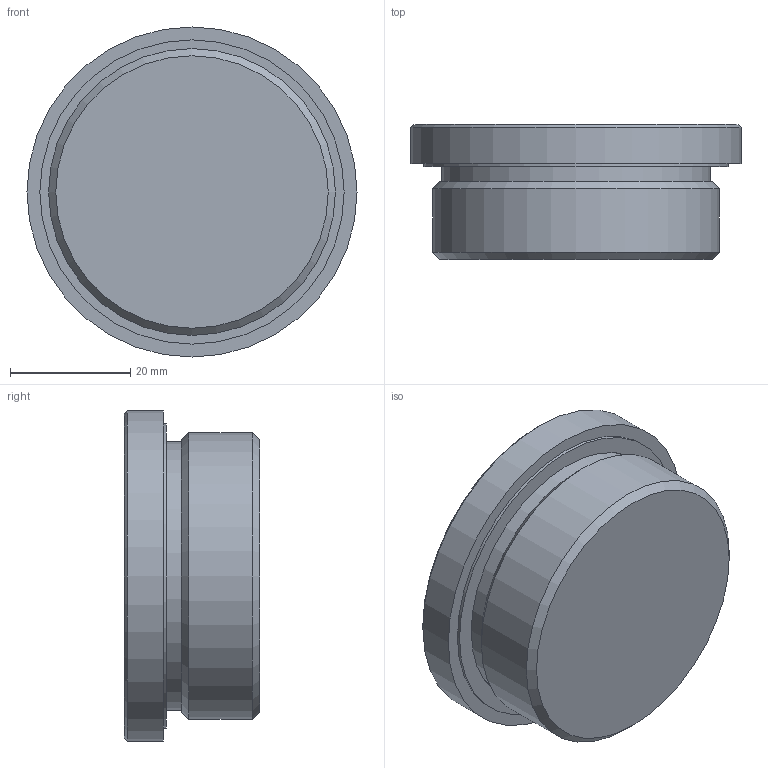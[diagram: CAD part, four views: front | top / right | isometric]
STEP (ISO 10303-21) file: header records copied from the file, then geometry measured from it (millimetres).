
FILE_DESCRIPTION( ( 'STEP AP203' ), '1' );
FILE_NAME( 'C:/Temp/Ganter_Step_05_03_2020/data/3_5/gn749/gn749_b/Threaded plug GN 749-G11_2-B.stp', '2020-03-12T13:41:42', ( 'License CC BY-ND 4.0' ), ( 'CADENAS' ), ' ', 'PARTsolutions', ' ' );
FILE_SCHEMA( ( 'CONFIG_CONTROL_DESIGN' ) );
Length unit declared in the file: millimetre
Products named in the file (1): _Threaded plug GN 749-G11/2-B
Bounding box: 55 x 22.5 x 55 mm (x, y, z)
Volume: 37491 mm3; surface area: 9568.2 mm2
Topology: 1 solids, 1 shells, 21 faces, 41 edges, 27 vertices
Faces by surface type: plane 13, cylinder 5, cone 3
Full cylindrical faces by diameter (mm): 44.803 x1, 45.203 x1, 47.803 x1, 50.7 x1, 55 x1
Entity records: 526 total; most frequent: DIRECTION 88, CARTESIAN_POINT 78, ORIENTED_EDGE 62, AXIS2_PLACEMENT_3D 35, EDGE_LOOP 34, EDGE_CURVE 31, FACE_OUTER_BOUND 26, VERTEX_POINT 25
